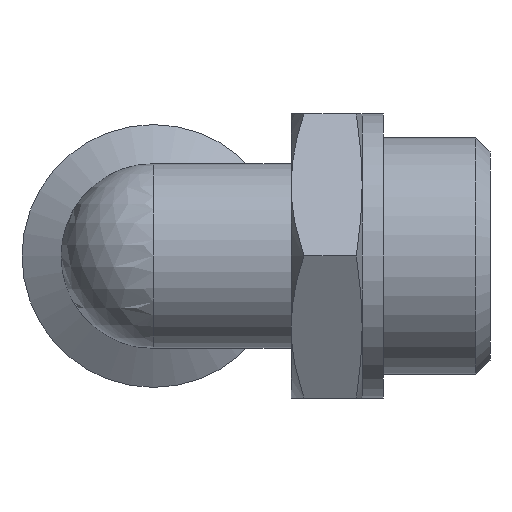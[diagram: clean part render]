
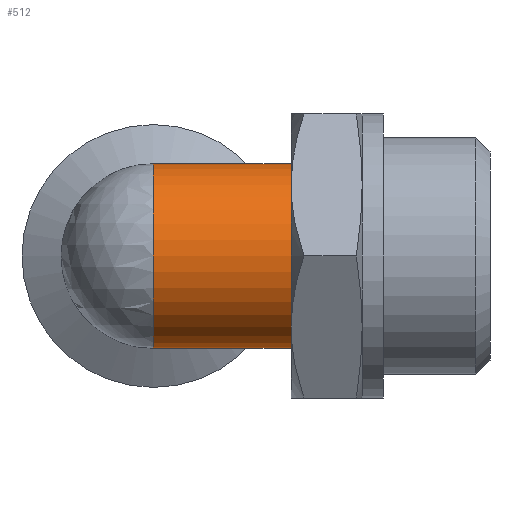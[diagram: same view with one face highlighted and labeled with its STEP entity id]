
A CAD part, left-side view. The second image highlights one B-rep face of the part: STEP entity #512.
In plain terms, the highlighted cylindrical face has radius 6.5 mm (diameter 13 mm), a full revolution.
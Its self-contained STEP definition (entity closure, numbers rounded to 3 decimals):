
#36=ELLIPSE($,#566,9.192,6.5);
#70=FACE_BOUND($,#148,.T.);
#91=CYLINDRICAL_SURFACE($,#564,6.5);
#105=FACE_OUTER_BOUND($,#147,.T.);
#147=EDGE_LOOP($,(#378));
#148=EDGE_LOOP($,(#379,#380));
#200=CIRCLE($,#562,6.5);
#202=CIRCLE($,#565,6.5);
#252=VERTEX_POINT($,#840);
#253=VERTEX_POINT($,#841);
#254=VERTEX_POINT($,#845);
#300=EDGE_CURVE($,#252,#253,#200,.T.);
#302=EDGE_CURVE($,#254,#254,#202,.T.);
#303=EDGE_CURVE($,#253,#252,#36,.T.);
#378=ORIENTED_EDGE($,*,*,#302,.T.);
#379=ORIENTED_EDGE($,*,*,#303,.F.);
#380=ORIENTED_EDGE($,*,*,#300,.F.);
#512=ADVANCED_FACE($,(#105,#70),#91,.T.);
#562=AXIS2_PLACEMENT_3D($,#842,#655,#656);
#564=AXIS2_PLACEMENT_3D($,#844,#659,#660);
#565=AXIS2_PLACEMENT_3D($,#846,#661,#662);
#566=AXIS2_PLACEMENT_3D($,#847,#663,#664);
#655=DIRECTION('center_axis',(0.,1.,0.));
#656=DIRECTION('ref_axis',(-1.,0.,0.));
#659=DIRECTION('center_axis',(0.,1.,0.));
#660=DIRECTION('ref_axis',(-1.,0.,0.));
#661=DIRECTION('center_axis',(0.,1.,0.));
#662=DIRECTION('ref_axis',(-1.,0.,0.));
#663=DIRECTION('center_axis',(0.707,0.707,0.));
#664=DIRECTION('ref_axis',(-0.707,0.707,0.));
#840=CARTESIAN_POINT('',(0.,0.,-6.5));
#841=CARTESIAN_POINT('',(0.,0.,6.5));
#842=CARTESIAN_POINT('Origin',(0.,0.,0.));
#844=CARTESIAN_POINT('Origin',(0.,-4.85,0.));
#845=CARTESIAN_POINT('',(-6.5,-9.7,0.));
#846=CARTESIAN_POINT('Origin',(0.,-9.7,0.));
#847=CARTESIAN_POINT('Origin',(0.,0.,0.));
